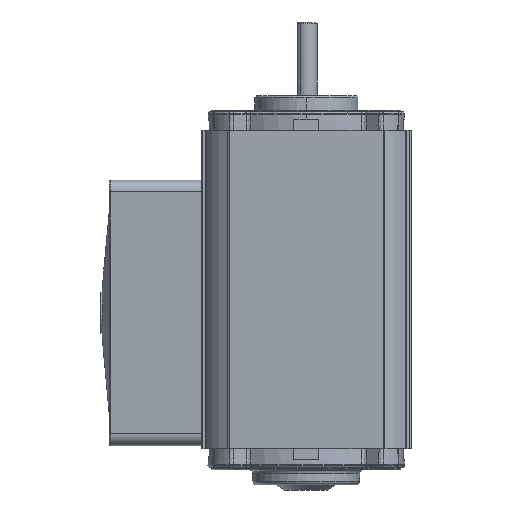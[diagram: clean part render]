
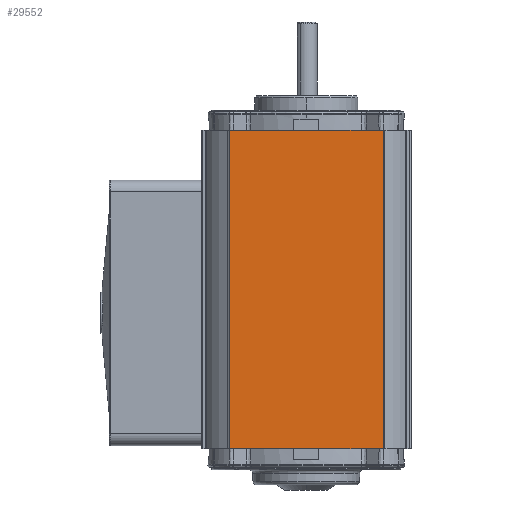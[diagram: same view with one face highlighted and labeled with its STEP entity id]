
A CAD part, left-side view. The second image highlights one B-rep face of the part: STEP entity #29552.
In plain terms, the highlighted planar face has unit normal (-1, 0, 0).
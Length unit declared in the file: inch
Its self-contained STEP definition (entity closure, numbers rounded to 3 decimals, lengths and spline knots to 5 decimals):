
#17097 = DIRECTION ( 'NONE',  ( 0., 0., -1. ) ) ;
#17098 = VECTOR ( 'NONE', #17097, 39.37008 ) ;
#17099 = CARTESIAN_POINT ( 'NONE',  ( -1.7765, 1.305, -5.395 ) ) ;
#17100 = LINE ( 'NONE', #17099, #17098 ) ;
#17101 = CARTESIAN_POINT ( 'NONE',  ( -1.7765, 1.305, 0. ) ) ;
#17102 = DIRECTION ( 'NONE',  ( 0., -1., 0. ) ) ;
#17103 = VECTOR ( 'NONE', #17102, 39.37008 ) ;
#17104 = CARTESIAN_POINT ( 'NONE',  ( -1.7765, -1.325, 0. ) ) ;
#17105 = LINE ( 'NONE', #17104, #17103 ) ;
#17106 = CARTESIAN_POINT ( 'NONE',  ( -1.7765, 1.305, -5.395 ) ) ;
#17107 = DIRECTION ( 'NONE',  ( 0., -1., 0. ) ) ;
#17108 = VECTOR ( 'NONE', #17107, 39.37008 ) ;
#17109 = CARTESIAN_POINT ( 'NONE',  ( -1.7765, -1.325, -5.395 ) ) ;
#17110 = LINE ( 'NONE', #17109, #17108 ) ;
#17111 = DIRECTION ( 'NONE',  ( 0., -1., 0. ) ) ;
#17112 = DIRECTION ( 'NONE',  ( -1., 0., 0. ) ) ;
#17113 = CARTESIAN_POINT ( 'NONE',  ( -1.7765, -1.325, -5.395 ) ) ;
#17114 = AXIS2_PLACEMENT_3D ( 'NONE', #17113, #17112, #17111 ) ;
#17115 = PLANE ( 'NONE',  #17114 ) ;
#17116 = FACE_OUTER_BOUND ( 'NONE', #29553, .T. ) ;
#17126 = CARTESIAN_POINT ( 'NONE',  ( -1.7765, -1.305, 0. ) ) ;
#17137 = CARTESIAN_POINT ( 'NONE',  ( -1.7765, -1.305, -5.395 ) ) ;
#17184 = DIRECTION ( 'NONE',  ( 0., 0., 1. ) ) ;
#17185 = VECTOR ( 'NONE', #17184, 39.37008 ) ;
#17186 = CARTESIAN_POINT ( 'NONE',  ( -1.7765, -1.305, -5.395 ) ) ;
#17187 = LINE ( 'NONE', #17186, #17185 ) ;
#29552 = ADVANCED_FACE ( 'NONE', ( #17116 ), #17115, .T. ) ;
#29553 = EDGE_LOOP ( 'NONE', ( #29554, #29557, #29558, #29561 ) ) ;
#29554 = ORIENTED_EDGE ( 'NONE', *, *, #29555, .T. ) ;
#29555 = EDGE_CURVE ( 'NONE', #29556, #29571, #17110, .T. ) ;
#29556 = VERTEX_POINT ( 'NONE', #17106 ) ;
#29557 = ORIENTED_EDGE ( 'NONE', *, *, #29579, .T. ) ;
#29558 = ORIENTED_EDGE ( 'NONE', *, *, #29559, .F. ) ;
#29559 = EDGE_CURVE ( 'NONE', #29560, #29577, #17105, .T. ) ;
#29560 = VERTEX_POINT ( 'NONE', #17101 ) ;
#29561 = ORIENTED_EDGE ( 'NONE', *, *, #29562, .T. ) ;
#29562 = EDGE_CURVE ( 'NONE', #29560, #29556, #17100, .T. ) ;
#29571 = VERTEX_POINT ( 'NONE', #17137 ) ;
#29577 = VERTEX_POINT ( 'NONE', #17126 ) ;
#29579 = EDGE_CURVE ( 'NONE', #29571, #29577, #17187, .T. ) ;
